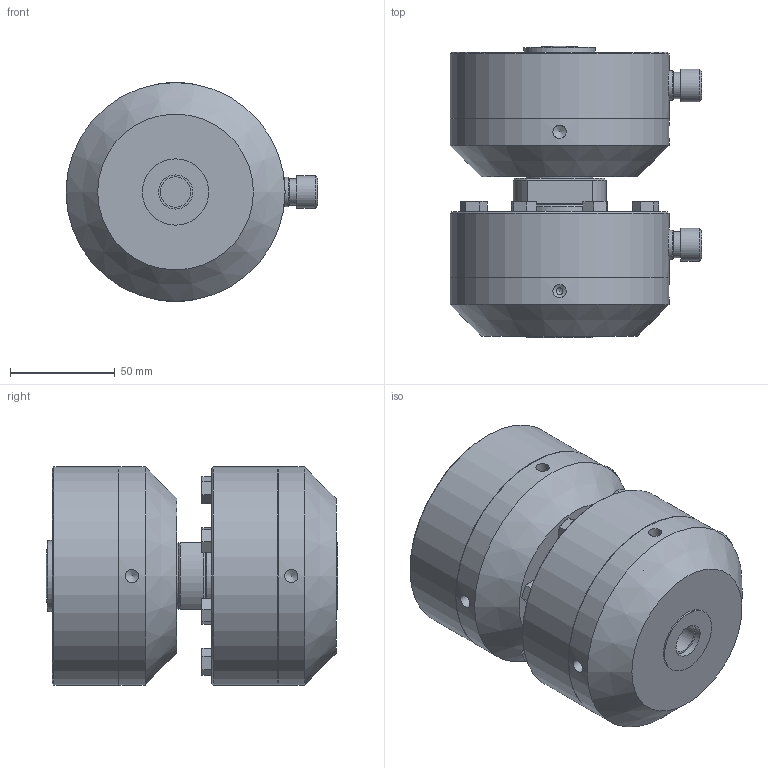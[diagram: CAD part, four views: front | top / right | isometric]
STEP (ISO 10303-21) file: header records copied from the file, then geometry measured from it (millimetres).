
FILE_DESCRIPTION (( 'STEP AP203' ), '1' );
FILE_NAME ('80115.STEP', '2018-03-12T13:48:53', ( '' ), ( '' ), 'SwSTEP 2.0', 'SolidWorks 2018', '' );
FILE_SCHEMA (( 'CONFIG_CONTROL_DESIGN' ));
Length unit declared in the file: inch
Products named in the file (1): 80115
Bounding box: 120.49 x 139.46 x 104.75 mm (x, y, z)
Volume: 969294.8 mm3; surface area: 99773.8 mm2
Topology: 1 solids, 25 shells, 546 faces, 1146 edges, 693 vertices
Faces by surface type: plane 226, cone 182, cylinder 105, bspline 24, torus 8, sphere 1
Full cylindrical faces by diameter (mm): 0.924 x12, 3.175 x2, 5.944 x8, 6.35 x25, 7.137 x8, 7.144 x8, 9.525 x8, 10.312 x8, 12.573 x2, 12.7 x2, 14.122 x2, 14.478 x1, 15.723 x2, 16.383 x1, 31.75 x2, 34.036 x2, 74.422 x2, 74.473 x1, 74.701 x1, 104.75 x4
Entity records: 13951 total; most frequent: CARTESIAN_POINT 4046, DIRECTION 2068, ORIENTED_EDGE 1642, AXIS2_PLACEMENT_3D 918, EDGE_LOOP 823, EDGE_CURVE 821, FACE_OUTER_BOUND 655, VERTEX_POINT 586
